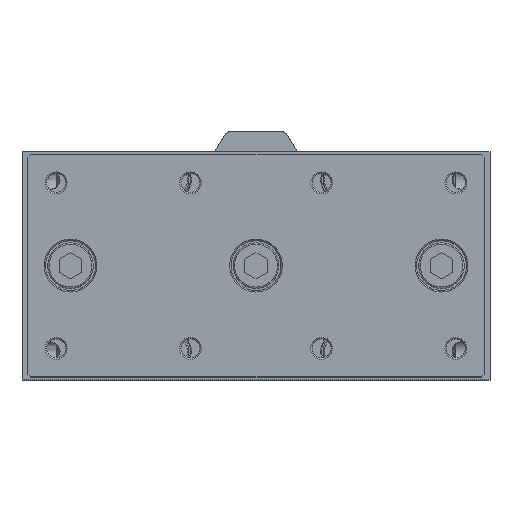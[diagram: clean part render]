
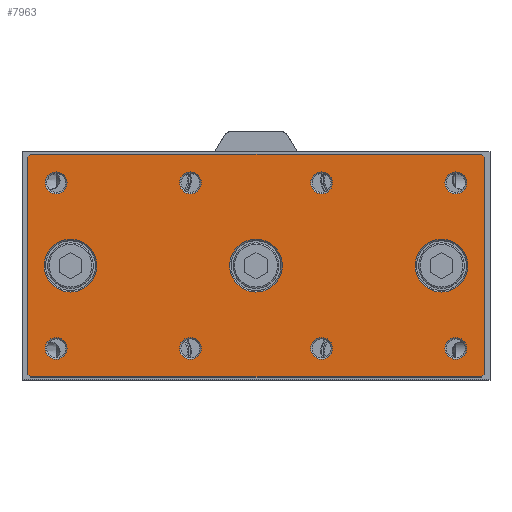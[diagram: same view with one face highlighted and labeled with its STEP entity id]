
A CAD part, top view. The second image highlights one B-rep face of the part: STEP entity #7963.
In plain terms, the highlighted planar face has unit normal (0, 0, 1).
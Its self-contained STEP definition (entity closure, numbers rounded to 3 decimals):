
#7745=CARTESIAN_POINT('',(-78.641,-40.316,115.5));
#7746=VERTEX_POINT('',#7745);
#7747=CARTESIAN_POINT('',(-79.641,-39.316,115.5));
#7748=VERTEX_POINT('',#7747);
#7749=CARTESIAN_POINT('',(-78.641,-40.316,115.5));
#7750=DIRECTION('',(-0.707,0.707,0.0));
#7751=VECTOR('',#7750,1.414);
#7752=LINE('',#7749,#7751);
#7753=EDGE_CURVE('',#7746,#7748,#7752,.T.);
#7780=CARTESIAN_POINT('',(0.359,-1.316,115.5));
#7781=DIRECTION('',(0.0,0.0,1.0));
#7782=DIRECTION('',(1.0,0.0,0.0));
#7783=AXIS2_PLACEMENT_3D('',#7780,#7781,#7782);
#7784=PLANE('',#7783);
#7785=ORIENTED_EDGE('',*,*,#7753,.F.);
#7786=CARTESIAN_POINT('',(79.359,-40.316,115.5));
#7787=VERTEX_POINT('',#7786);
#7788=CARTESIAN_POINT('',(79.359,-40.316,115.5));
#7789=DIRECTION('',(-1.0,0.0,0.0));
#7790=VECTOR('',#7789,158.0);
#7791=LINE('',#7788,#7790);
#7792=EDGE_CURVE('',#7787,#7746,#7791,.T.);
#7793=ORIENTED_EDGE('',*,*,#7792,.F.);
#7794=CARTESIAN_POINT('',(80.359,-39.316,115.5));
#7795=VERTEX_POINT('',#7794);
#7796=CARTESIAN_POINT('',(80.359,-39.316,115.5));
#7797=DIRECTION('',(-0.707,-0.707,0.0));
#7798=VECTOR('',#7797,1.414);
#7799=LINE('',#7796,#7798);
#7800=EDGE_CURVE('',#7795,#7787,#7799,.T.);
#7801=ORIENTED_EDGE('',*,*,#7800,.F.);
#7802=CARTESIAN_POINT('',(80.359,36.684,115.5));
#7803=VERTEX_POINT('',#7802);
#7804=CARTESIAN_POINT('',(80.359,36.684,115.5));
#7805=DIRECTION('',(0.0,-1.0,0.0));
#7806=VECTOR('',#7805,76.);
#7807=LINE('',#7804,#7806);
#7808=EDGE_CURVE('',#7803,#7795,#7807,.T.);
#7809=ORIENTED_EDGE('',*,*,#7808,.F.);
#7810=CARTESIAN_POINT('',(79.359,37.684,115.5));
#7811=VERTEX_POINT('',#7810);
#7812=CARTESIAN_POINT('',(79.359,37.684,115.5));
#7813=DIRECTION('',(0.707,-0.707,0.0));
#7814=VECTOR('',#7813,1.414);
#7815=LINE('',#7812,#7814);
#7816=EDGE_CURVE('',#7811,#7803,#7815,.T.);
#7817=ORIENTED_EDGE('',*,*,#7816,.F.);
#7818=CARTESIAN_POINT('',(-78.641,37.684,115.5));
#7819=VERTEX_POINT('',#7818);
#7820=CARTESIAN_POINT('',(-78.641,37.684,115.5));
#7821=DIRECTION('',(1.0,0.0,0.0));
#7822=VECTOR('',#7821,158.0);
#7823=LINE('',#7820,#7822);
#7824=EDGE_CURVE('',#7819,#7811,#7823,.T.);
#7825=ORIENTED_EDGE('',*,*,#7824,.F.);
#7826=CARTESIAN_POINT('',(-79.641,36.684,115.5));
#7827=VERTEX_POINT('',#7826);
#7828=CARTESIAN_POINT('',(-79.641,36.684,115.5));
#7829=DIRECTION('',(0.707,0.707,0.0));
#7830=VECTOR('',#7829,1.414);
#7831=LINE('',#7828,#7830);
#7832=EDGE_CURVE('',#7827,#7819,#7831,.T.);
#7833=ORIENTED_EDGE('',*,*,#7832,.F.);
#7834=CARTESIAN_POINT('',(-79.641,-39.316,115.5));
#7835=DIRECTION('',(0.0,1.0,0.0));
#7836=VECTOR('',#7835,76.0);
#7837=LINE('',#7834,#7836);
#7838=EDGE_CURVE('',#7748,#7827,#7837,.T.);
#7839=ORIENTED_EDGE('',*,*,#7838,.F.);
#7840=EDGE_LOOP('',(#7785,#7793,#7801,#7809,#7817,#7825,#7833,#7839));
#7841=FACE_OUTER_BOUND('',#7840,.T.);
#7842=CARTESIAN_POINT('',(-65.818,27.684,115.5));
#7843=VERTEX_POINT('',#7842);
#7844=CARTESIAN_POINT('',(-69.641,27.684,115.5));
#7845=DIRECTION('',(0.0,0.0,1.0));
#7846=DIRECTION('',(-1.0,0.0,0.0));
#7847=AXIS2_PLACEMENT_3D('',#7844,#7845,#7846);
#7848=CIRCLE('',#7847,3.823);
#7849=EDGE_CURVE('',#7843,#7843,#7848,.T.);
#7850=ORIENTED_EDGE('',*,*,#7849,.F.);
#7851=EDGE_LOOP('',(#7850));
#7852=FACE_BOUND('',#7851,.T.);
#7853=CARTESIAN_POINT('',(-18.818,27.684,115.5));
#7854=VERTEX_POINT('',#7853);
#7855=CARTESIAN_POINT('',(-22.641,27.684,115.5));
#7856=DIRECTION('',(0.0,0.0,1.0));
#7857=DIRECTION('',(-1.0,0.0,0.0));
#7858=AXIS2_PLACEMENT_3D('',#7855,#7856,#7857);
#7859=CIRCLE('',#7858,3.823);
#7860=EDGE_CURVE('',#7854,#7854,#7859,.T.);
#7861=ORIENTED_EDGE('',*,*,#7860,.F.);
#7862=EDGE_LOOP('',(#7861));
#7863=FACE_BOUND('',#7862,.T.);
#7864=CARTESIAN_POINT('',(9.609,-1.316,115.5));
#7865=VERTEX_POINT('',#7864);
#7866=CARTESIAN_POINT('',(0.359,-1.316,115.5));
#7867=DIRECTION('',(0.0,0.0,1.0));
#7868=DIRECTION('',(-1.0,0.0,0.0));
#7869=AXIS2_PLACEMENT_3D('',#7866,#7867,#7868);
#7870=CIRCLE('',#7869,9.25);
#7871=EDGE_CURVE('',#7865,#7865,#7870,.T.);
#7872=ORIENTED_EDGE('',*,*,#7871,.F.);
#7873=EDGE_LOOP('',(#7872));
#7874=FACE_BOUND('',#7873,.T.);
#7875=CARTESIAN_POINT('',(74.609,-1.316,115.5));
#7876=VERTEX_POINT('',#7875);
#7877=CARTESIAN_POINT('',(65.359,-1.316,115.5));
#7878=DIRECTION('',(0.0,0.0,1.0));
#7879=DIRECTION('',(-1.0,0.0,0.0));
#7880=AXIS2_PLACEMENT_3D('',#7877,#7878,#7879);
#7881=CIRCLE('',#7880,9.25);
#7882=EDGE_CURVE('',#7876,#7876,#7881,.T.);
#7883=ORIENTED_EDGE('',*,*,#7882,.F.);
#7884=EDGE_LOOP('',(#7883));
#7885=FACE_BOUND('',#7884,.T.);
#7886=CARTESIAN_POINT('',(-55.391,-1.316,115.5));
#7887=VERTEX_POINT('',#7886);
#7888=CARTESIAN_POINT('',(-64.641,-1.316,115.5));
#7889=DIRECTION('',(0.0,0.0,1.0));
#7890=DIRECTION('',(-1.0,0.0,0.0));
#7891=AXIS2_PLACEMENT_3D('',#7888,#7889,#7890);
#7892=CIRCLE('',#7891,9.25);
#7893=EDGE_CURVE('',#7887,#7887,#7892,.T.);
#7894=ORIENTED_EDGE('',*,*,#7893,.F.);
#7895=EDGE_LOOP('',(#7894));
#7896=FACE_BOUND('',#7895,.T.);
#7897=CARTESIAN_POINT('',(74.182,-30.316,115.5));
#7898=VERTEX_POINT('',#7897);
#7899=CARTESIAN_POINT('',(70.359,-30.316,115.5));
#7900=DIRECTION('',(0.0,0.0,1.0));
#7901=DIRECTION('',(-1.0,0.0,0.0));
#7902=AXIS2_PLACEMENT_3D('',#7899,#7900,#7901);
#7903=CIRCLE('',#7902,3.823);
#7904=EDGE_CURVE('',#7898,#7898,#7903,.T.);
#7905=ORIENTED_EDGE('',*,*,#7904,.F.);
#7906=EDGE_LOOP('',(#7905));
#7907=FACE_BOUND('',#7906,.T.);
#7908=CARTESIAN_POINT('',(-65.818,-30.316,115.5));
#7909=VERTEX_POINT('',#7908);
#7910=CARTESIAN_POINT('',(-69.641,-30.316,115.5));
#7911=DIRECTION('',(0.0,0.0,1.0));
#7912=DIRECTION('',(-1.0,0.0,0.0));
#7913=AXIS2_PLACEMENT_3D('',#7910,#7911,#7912);
#7914=CIRCLE('',#7913,3.823);
#7915=EDGE_CURVE('',#7909,#7909,#7914,.T.);
#7916=ORIENTED_EDGE('',*,*,#7915,.F.);
#7917=EDGE_LOOP('',(#7916));
#7918=FACE_BOUND('',#7917,.T.);
#7919=CARTESIAN_POINT('',(74.182,27.684,115.5));
#7920=VERTEX_POINT('',#7919);
#7921=CARTESIAN_POINT('',(70.359,27.684,115.5));
#7922=DIRECTION('',(0.0,0.0,1.0));
#7923=DIRECTION('',(-1.0,0.0,0.0));
#7924=AXIS2_PLACEMENT_3D('',#7921,#7922,#7923);
#7925=CIRCLE('',#7924,3.823);
#7926=EDGE_CURVE('',#7920,#7920,#7925,.T.);
#7927=ORIENTED_EDGE('',*,*,#7926,.F.);
#7928=EDGE_LOOP('',(#7927));
#7929=FACE_BOUND('',#7928,.T.);
#7930=CARTESIAN_POINT('',(27.182,-30.316,115.5));
#7931=VERTEX_POINT('',#7930);
#7932=CARTESIAN_POINT('',(23.359,-30.316,115.5));
#7933=DIRECTION('',(0.0,0.0,1.0));
#7934=DIRECTION('',(-1.0,0.0,0.0));
#7935=AXIS2_PLACEMENT_3D('',#7932,#7933,#7934);
#7936=CIRCLE('',#7935,3.824);
#7937=EDGE_CURVE('',#7931,#7931,#7936,.T.);
#7938=ORIENTED_EDGE('',*,*,#7937,.F.);
#7939=EDGE_LOOP('',(#7938));
#7940=FACE_BOUND('',#7939,.T.);
#7941=CARTESIAN_POINT('',(-18.818,-30.316,115.5));
#7942=VERTEX_POINT('',#7941);
#7943=CARTESIAN_POINT('',(-22.641,-30.316,115.5));
#7944=DIRECTION('',(0.0,0.0,1.0));
#7945=DIRECTION('',(-1.0,0.0,0.0));
#7946=AXIS2_PLACEMENT_3D('',#7943,#7944,#7945);
#7947=CIRCLE('',#7946,3.823);
#7948=EDGE_CURVE('',#7942,#7942,#7947,.T.);
#7949=ORIENTED_EDGE('',*,*,#7948,.F.);
#7950=EDGE_LOOP('',(#7949));
#7951=FACE_BOUND('',#7950,.T.);
#7952=CARTESIAN_POINT('',(27.182,27.684,115.5));
#7953=VERTEX_POINT('',#7952);
#7954=CARTESIAN_POINT('',(23.359,27.684,115.5));
#7955=DIRECTION('',(0.0,0.0,1.0));
#7956=DIRECTION('',(-1.0,0.0,0.0));
#7957=AXIS2_PLACEMENT_3D('',#7954,#7955,#7956);
#7958=CIRCLE('',#7957,3.824);
#7959=EDGE_CURVE('',#7953,#7953,#7958,.T.);
#7960=ORIENTED_EDGE('',*,*,#7959,.F.);
#7961=EDGE_LOOP('',(#7960));
#7962=FACE_BOUND('',#7961,.T.);
#7963=ADVANCED_FACE('',(#7841,#7852,#7863,#7874,#7885,#7896,#7907,#7918,#7929,#7940,#7951,#7962),#7784,.T.);
